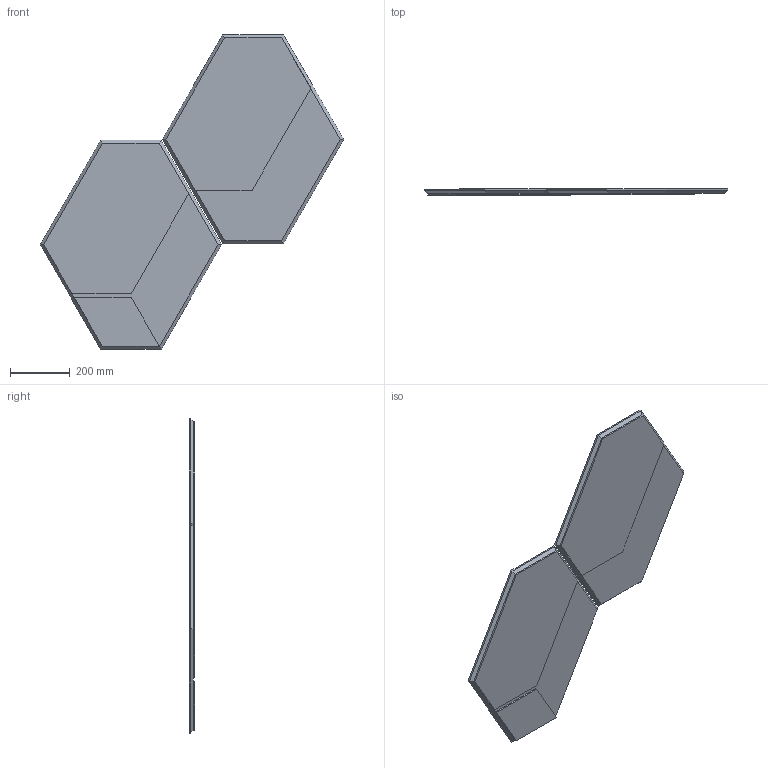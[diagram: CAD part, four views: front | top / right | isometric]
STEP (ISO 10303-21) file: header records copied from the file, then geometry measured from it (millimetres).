
FILE_DESCRIPTION (( 'STEP AP203' ), '1' );
FILE_NAME ('GEO20_GeoBC_110x104.STEP', '2024-08-06T07:22:30', ( '' ), ( '' ), 'SwSTEP 2.0', 'SolidWorks 2022', '' );
FILE_SCHEMA (( 'CONFIG_CONTROL_DESIGN' ));
Length unit declared in the file: millimetre
Products named in the file (3): GEO0000000000-00-Geo strutture A B e C_GEO02 B 70X60,6; GEO20_GeoBC_110x104; GEO0000000000-00-Geo strutture A B e C_GEO03 C 70X60,7
Assembly tree (2 placements, depth 2):
  GEO20_GeoBC_110x104
    GEO0000000000-00-Geo strutture A B e C_GEO02 B 70X60,6
    GEO0000000000-00-Geo strutture A B e C_GEO03 C 70X60,7
Bounding box: 1015.26 x 20 x 1052.6 mm (x, y, z)
Volume: 9981884.1 mm3; surface area: 1925518.5 mm2
Topology: 9 solids, 9 shells, 250 faces, 644 edges, 412 vertices
Faces by surface type: plane 146, cylinder 88, cone 16
Entity records: 7791 total; most frequent: DIRECTION 1314, CARTESIAN_POINT 1295, ORIENTED_EDGE 1256, EDGE_CURVE 628, LINE 452, VECTOR 452, AXIS2_PLACEMENT_3D 431, VERTEX_POINT 412
